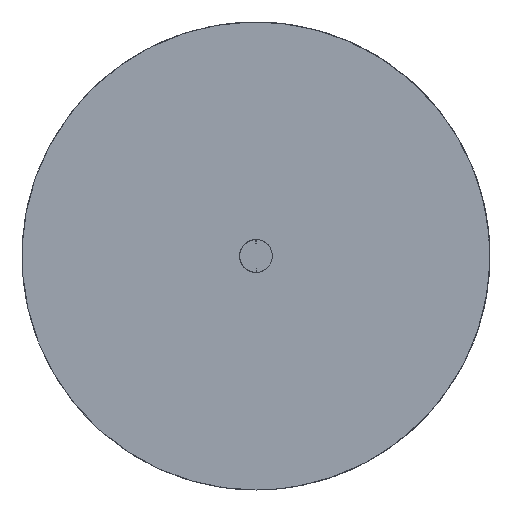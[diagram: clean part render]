
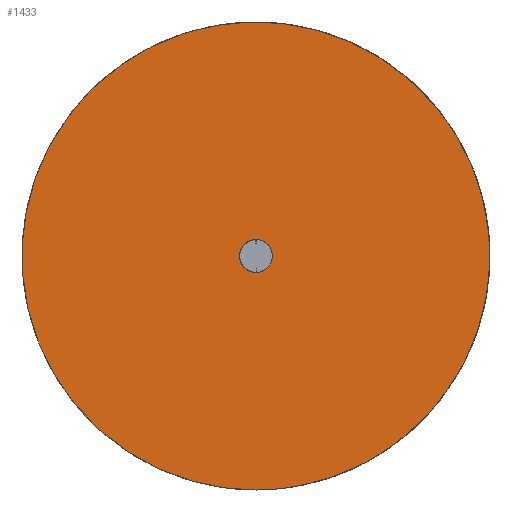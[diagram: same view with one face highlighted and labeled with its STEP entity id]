
A CAD part, front view. The second image highlights one B-rep face of the part: STEP entity #1433.
In plain terms, the highlighted planar face has unit normal (0, 1, 0).
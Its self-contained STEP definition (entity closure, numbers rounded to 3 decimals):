
#1433=ADVANCED_FACE('',(#1553,#1532),#3120,.T.);
#1532=FACE_BOUND('',#1667,.T.);
#1553=FACE_OUTER_BOUND('',#1666,.T.);
#1666=EDGE_LOOP('',(#1831));
#1667=EDGE_LOOP('',(#1832));
#1831=ORIENTED_EDGE('',*,*,#2193,.T.);
#1832=ORIENTED_EDGE('',*,*,#2194,.T.);
#2193=EDGE_CURVE('',#2811,#2811,#2509,.T.);
#2194=EDGE_CURVE('',#2812,#2812,#2510,.T.);
#2509=(
BOUNDED_CURVE()
B_SPLINE_CURVE(2,(#3725,#3726,#3727,#3728,#3729,#3730,#3731,#3732,#3733),
 .UNSPECIFIED.,.T.,.F.)
B_SPLINE_CURVE_WITH_KNOTS((3,2,2,2,3),(0.,1.571,3.142,
4.712,6.283),.UNSPECIFIED.)
CURVE()
GEOMETRIC_REPRESENTATION_ITEM()
RATIONAL_B_SPLINE_CURVE((1.,0.707,1.,0.707,1.,0.707,
1.,0.707,1.))
REPRESENTATION_ITEM('')
);
#2510=(
BOUNDED_CURVE()
B_SPLINE_CURVE(2,(#3734,#3735,#3736,#3737,#3738,#3739,#3740,#3741,#3742),
 .UNSPECIFIED.,.T.,.F.)
B_SPLINE_CURVE_WITH_KNOTS((3,2,2,2,3),(0.,1.571,3.142,
4.712,6.283),.UNSPECIFIED.)
CURVE()
GEOMETRIC_REPRESENTATION_ITEM()
RATIONAL_B_SPLINE_CURVE((1.,0.707,1.,0.707,1.,0.707,
1.,0.707,1.))
REPRESENTATION_ITEM('')
);
#2811=VERTEX_POINT('',#3723);
#2812=VERTEX_POINT('',#3724);
#3120=PLANE('',#3160);
#3160=AXIS2_PLACEMENT_3D('',#3722,#3183,$);
#3183=DIRECTION('',(0.,1.,0.));
#3722=CARTESIAN_POINT('',(-101.2,0.,101.2));
#3723=CARTESIAN_POINT('',(0.,0.,-100.));
#3724=CARTESIAN_POINT('',(0.,0.,7.));
#3725=CARTESIAN_POINT('',(0.,0.,-100.));
#3726=CARTESIAN_POINT('',(-100.,0.,-100.));
#3727=CARTESIAN_POINT('',(-100.,0.,0.));
#3728=CARTESIAN_POINT('',(-100.,0.,100.));
#3729=CARTESIAN_POINT('',(0.,0.,100.));
#3730=CARTESIAN_POINT('',(100.,0.,100.));
#3731=CARTESIAN_POINT('',(100.,0.,0.));
#3732=CARTESIAN_POINT('',(100.,0.,-100.));
#3733=CARTESIAN_POINT('',(0.,0.,-100.));
#3734=CARTESIAN_POINT('',(0.,0.,7.));
#3735=CARTESIAN_POINT('',(-7.,0.,7.));
#3736=CARTESIAN_POINT('',(-7.,0.,0.));
#3737=CARTESIAN_POINT('',(-7.,0.,-7.));
#3738=CARTESIAN_POINT('',(0.,0.,-7.));
#3739=CARTESIAN_POINT('',(7.,0.,-7.));
#3740=CARTESIAN_POINT('',(7.,0.,0.));
#3741=CARTESIAN_POINT('',(7.,0.,7.));
#3742=CARTESIAN_POINT('',(0.,0.,7.));
